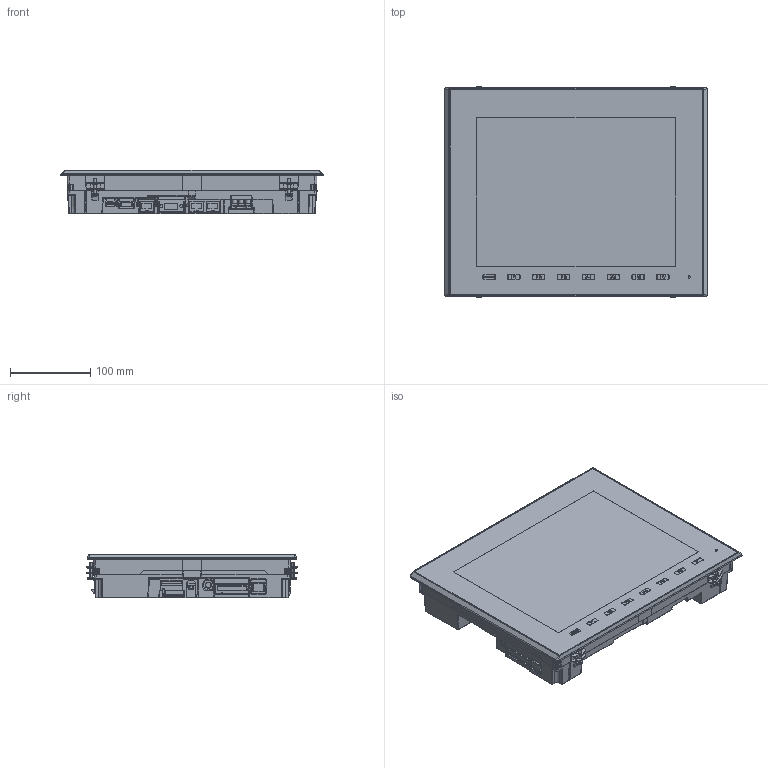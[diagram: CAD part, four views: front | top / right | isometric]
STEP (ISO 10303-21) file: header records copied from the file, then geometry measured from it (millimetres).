
FILE_DESCRIPTION((''),'2;1');
FILE_NAME('V912ISD-3D-DATA','2015-01-07T',('takahashi'),('Hakko Electronics Co.,Ltd.'),'PRO/ENGINEER BY PARAMETRIC TECHNOLOGY CORPORATION, 2011330','PRO/ENGINEER BY PARAMETRIC TECHNOLOGY CORPORATION, 2011330','');
FILE_SCHEMA(('CONFIG_CONTROL_DESIGN'));
Products named in the file (1): V912ISD-3D-DATA
Bounding box: 327.8 x 264.4 x 54.9 mm (x, y, z)
Volume: 3948648.4 mm3; surface area: 249985.1 mm2
Topology: 1 solids, 1 shells, 3752 faces, 10253 edges, 6630 vertices
Faces by surface type: plane 2813, cylinder 561, bspline 167, sphere 72, cone 66, torus 54, extrusion 19
Entity records: 136459 total; most frequent: CARTESIAN_POINT 43218, ORIENTED_EDGE 20506, DIRECTION 17363, EDGE_CURVE 10253, VECTOR 8485, LINE 8466, VERTEX_POINT 6630, AXIS2_PLACEMENT_3D 4439
